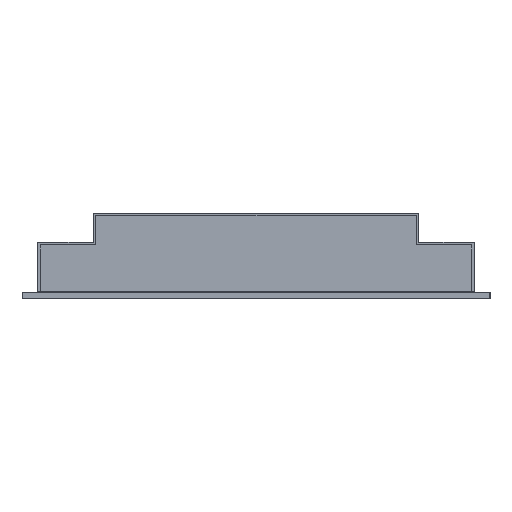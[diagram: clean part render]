
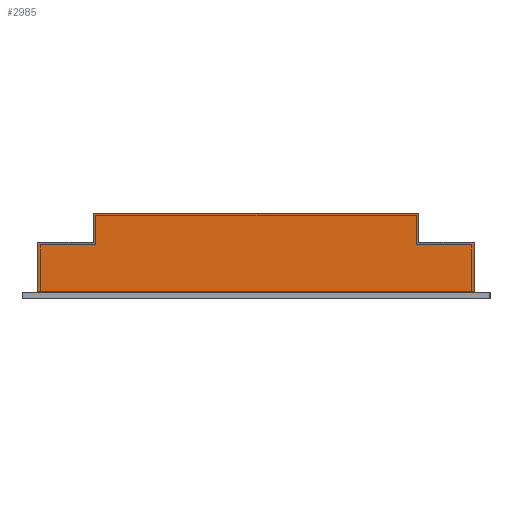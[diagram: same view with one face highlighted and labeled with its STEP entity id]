
A CAD part, left-side view. The second image highlights one B-rep face of the part: STEP entity #2985.
In plain terms, the highlighted planar face has unit normal (-1, 0, 0).
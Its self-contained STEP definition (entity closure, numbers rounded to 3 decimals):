
#41 = EDGE_LOOP ( 'NONE', ( #2683, #782, #4791, #3955, #5111, #2738, #6341, #4209 ) ) ;
#159 = VERTEX_POINT ( 'NONE', #4154 ) ;
#170 = DIRECTION ( 'NONE',  ( 0., 0., -1. ) ) ;
#269 = VERTEX_POINT ( 'NONE', #3165 ) ;
#352 = CARTESIAN_POINT ( 'NONE',  ( -103., 69., 17.8 ) ) ;
#576 = CARTESIAN_POINT ( 'NONE',  ( -103., -51.5, 27. ) ) ;
#634 = CARTESIAN_POINT ( 'NONE',  ( -103., -51.5, 17.8 ) ) ;
#701 = LINE ( 'NONE', #2933, #4529 ) ;
#721 = VECTOR ( 'NONE', #1741, 1000. ) ;
#782 = ORIENTED_EDGE ( 'NONE', *, *, #2640, .F. ) ;
#949 = VECTOR ( 'NONE', #3633, 1000. ) ;
#1055 = CARTESIAN_POINT ( 'NONE',  ( -103., 69., 17.8 ) ) ;
#1061 = VECTOR ( 'NONE', #5427, 1000. ) ;
#1300 = VERTEX_POINT ( 'NONE', #352 ) ;
#1354 = VECTOR ( 'NONE', #170, 1000. ) ;
#1475 = CARTESIAN_POINT ( 'NONE',  ( -103., 69., 17.8 ) ) ;
#1578 = VECTOR ( 'NONE', #7018, 1000. ) ;
#1737 = CARTESIAN_POINT ( 'NONE',  ( -103., 69., 17.8 ) ) ;
#1741 = DIRECTION ( 'NONE',  ( 0., 0., -1. ) ) ;
#1865 = DIRECTION ( 'NONE',  ( 0., -1., 0. ) ) ;
#1914 = EDGE_CURVE ( 'NONE', #4385, #5301, #5349, .T. ) ;
#2288 = AXIS2_PLACEMENT_3D ( 'NONE', #1737, #6291, #5169 ) ;
#2292 = EDGE_CURVE ( 'NONE', #5301, #269, #2975, .T. ) ;
#2400 = CARTESIAN_POINT ( 'NONE',  ( -103., -51.5, 27. ) ) ;
#2640 = EDGE_CURVE ( 'NONE', #269, #159, #3110, .T. ) ;
#2683 = ORIENTED_EDGE ( 'NONE', *, *, #6424, .T. ) ;
#2738 = ORIENTED_EDGE ( 'NONE', *, *, #6084, .T. ) ;
#2838 = FACE_OUTER_BOUND ( 'NONE', #41, .T. ) ;
#2933 = CARTESIAN_POINT ( 'NONE',  ( -103., 51.5, 27. ) ) ;
#2975 = LINE ( 'NONE', #5265, #4332 ) ;
#2985 = ADVANCED_FACE ( 'NONE', ( #2838 ), #5052, .F. ) ;
#3110 = LINE ( 'NONE', #4833, #1578 ) ;
#3165 = CARTESIAN_POINT ( 'NONE',  ( -103., -69., 17.8 ) ) ;
#3322 = VERTEX_POINT ( 'NONE', #5601 ) ;
#3633 = DIRECTION ( 'NONE',  ( 0., 0., -1. ) ) ;
#3711 = LINE ( 'NONE', #6003, #721 ) ;
#3955 = ORIENTED_EDGE ( 'NONE', *, *, #1914, .F. ) ;
#4154 = CARTESIAN_POINT ( 'NONE',  ( -103., -69., 2.2 ) ) ;
#4209 = ORIENTED_EDGE ( 'NONE', *, *, #6435, .T. ) ;
#4332 = VECTOR ( 'NONE', #1865, 1000. ) ;
#4385 = VERTEX_POINT ( 'NONE', #576 ) ;
#4529 = VECTOR ( 'NONE', #5333, 1000. ) ;
#4761 = EDGE_CURVE ( 'NONE', #1300, #3322, #4949, .T. ) ;
#4791 = ORIENTED_EDGE ( 'NONE', *, *, #2292, .F. ) ;
#4833 = CARTESIAN_POINT ( 'NONE',  ( -103., -69., 17.8 ) ) ;
#4908 = CARTESIAN_POINT ( 'NONE',  ( -103., 69., 2.2 ) ) ;
#4949 = LINE ( 'NONE', #1055, #5026 ) ;
#5026 = VECTOR ( 'NONE', #5653, 1000. ) ;
#5052 = PLANE ( 'NONE',  #2288 ) ;
#5111 = ORIENTED_EDGE ( 'NONE', *, *, #5902, .F. ) ;
#5169 = DIRECTION ( 'NONE',  ( 0., 1., 0. ) ) ;
#5265 = CARTESIAN_POINT ( 'NONE',  ( -103., 69., 17.8 ) ) ;
#5301 = VERTEX_POINT ( 'NONE', #634 ) ;
#5333 = DIRECTION ( 'NONE',  ( 0., -1., 0. ) ) ;
#5349 = LINE ( 'NONE', #2400, #1354 ) ;
#5427 = DIRECTION ( 'NONE',  ( 0., -1., 0. ) ) ;
#5601 = CARTESIAN_POINT ( 'NONE',  ( -103., 51.5, 17.8 ) ) ;
#5653 = DIRECTION ( 'NONE',  ( 0., -1., 0. ) ) ;
#5846 = CARTESIAN_POINT ( 'NONE',  ( -103., 51.5, 27. ) ) ;
#5902 = EDGE_CURVE ( 'NONE', #6281, #4385, #701, .T. ) ;
#6003 = CARTESIAN_POINT ( 'NONE',  ( -103., 51.5, 27. ) ) ;
#6084 = EDGE_CURVE ( 'NONE', #6281, #3322, #3711, .T. ) ;
#6281 = VERTEX_POINT ( 'NONE', #5846 ) ;
#6291 = DIRECTION ( 'NONE',  ( 1., 0., 0. ) ) ;
#6341 = ORIENTED_EDGE ( 'NONE', *, *, #4761, .F. ) ;
#6400 = CARTESIAN_POINT ( 'NONE',  ( -103., 69., 2.2 ) ) ;
#6424 = EDGE_CURVE ( 'NONE', #6704, #159, #7081, .T. ) ;
#6435 = EDGE_CURVE ( 'NONE', #1300, #6704, #7188, .T. ) ;
#6704 = VERTEX_POINT ( 'NONE', #6400 ) ;
#7018 = DIRECTION ( 'NONE',  ( 0., 0., -1. ) ) ;
#7081 = LINE ( 'NONE', #4908, #1061 ) ;
#7188 = LINE ( 'NONE', #1475, #949 ) ;
